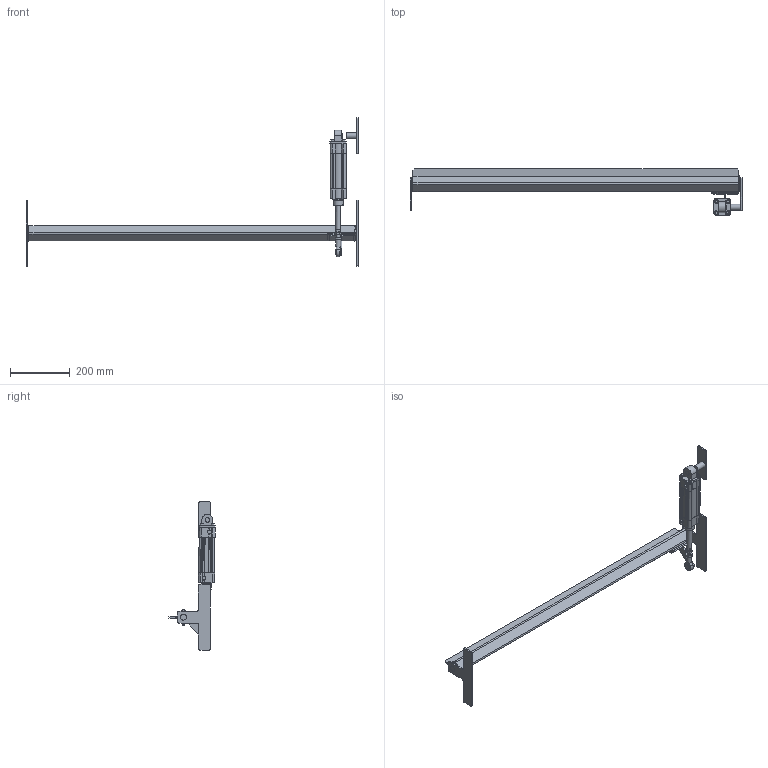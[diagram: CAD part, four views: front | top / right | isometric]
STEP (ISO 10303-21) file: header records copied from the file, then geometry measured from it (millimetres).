
FILE_DESCRIPTION((''),'2;1');
FILE_NAME('C:\Vault_Working_Folder\Designs\Inventor\Lättviktsmodeller\Maxi\IRSP 80-11-1150.stp','2012-11-13T10:06:48',('martin.samuelsson'),(''),'Autodesk Inventor 2013','Autodesk Inventor 2013','');
FILE_SCHEMA(('AUTOMOTIVE_DESIGN { 1 0 10303 214 1 1 1 1 }'));
Length unit declared in the file: millimetre
Products named in the file (1): IRSP 80-11-1150
Bounding box: 1110 x 157.02 x 495 mm (x, y, z)
Volume: 2569884 mm3; surface area: 377161.1 mm2
Topology: 2 solids, 2 shells, 938 faces, 2568 edges, 1694 vertices
Faces by surface type: plane 536, bspline 192, cylinder 182, cone 23, sphere 3, torus 2
Full cylindrical faces by diameter (mm): 9.653 x1, 10 x4, 12 x6, 13.157 x2, 15 x2, 16 x1, 17 x1, 20 x3, 34 x1, 35 x1, 38 x2
Entity records: 32065 total; most frequent: CARTESIAN_POINT 8497, ORIENTED_EDGE 5056, DIRECTION 3993, EDGE_CURVE 2528, VERTEX_POINT 1688, VECTOR 1683, LINE 1683, AXIS2_PLACEMENT_3D 1155
